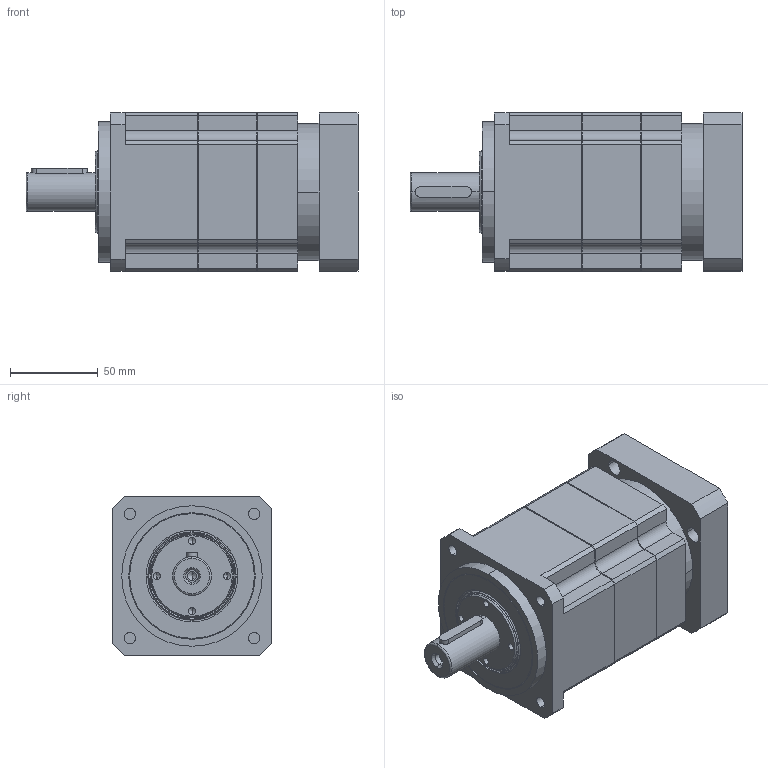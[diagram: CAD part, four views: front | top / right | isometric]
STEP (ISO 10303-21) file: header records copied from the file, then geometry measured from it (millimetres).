
FILE_DESCRIPTION (( 'STEP AP214' ), '1' );
FILE_NAME ('PX90-L2.STEP', '2019-03-26T05:40:14', ( '微软用户' ), ( '微软中国' ), 'SwSTEP 2.0', 'SolidWorks 2014', '' );
FILE_SCHEMA (( 'AUTOMOTIVE_DESIGN' ));
Length unit declared in the file: millimetre
Products named in the file (7): 奻裔啣; 内六角圆柱头螺钉M6×16; A倰す瑩 6x6x32; PX90-帣釱; 二级齿圈; PX90-L2; 油封範本 TC 72x50x8_TC-34.9-55-7
Assembly tree (6 placements, depth 2):
  PX90-L2
    奻裔啣
    二级齿圈
    PX90-帣釱
    油封範本 TC 72x50x8_TC-34.9-55-7
    内六角圆柱头螺钉M6×16
    A倰す瑩 6x6x32
Bounding box: 189 x 90 x 90 mm (x, y, z)
Volume: 956542.1 mm3; surface area: 140772.9 mm2
Topology: 6 solids, 6 shells, 394 faces, 950 edges, 585 vertices
Faces by surface type: cylinder 170, plane 132, cone 72, torus 20
Entity records: 12158 total; most frequent: CARTESIAN_POINT 2266, DIRECTION 2133, ORIENTED_EDGE 1860, EDGE_CURVE 930, AXIS2_PLACEMENT_3D 841, VERTEX_POINT 585, EDGE_LOOP 471, VECTOR 451
